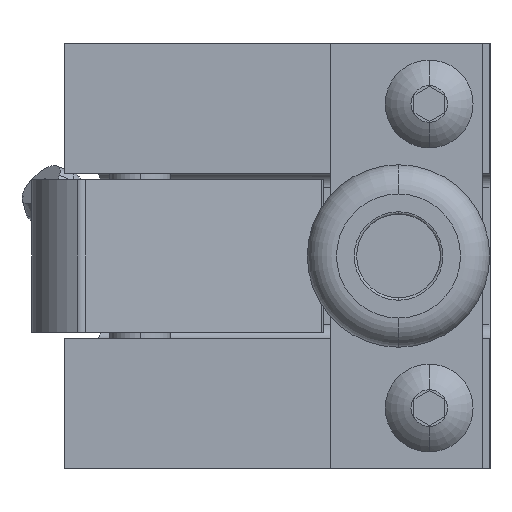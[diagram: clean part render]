
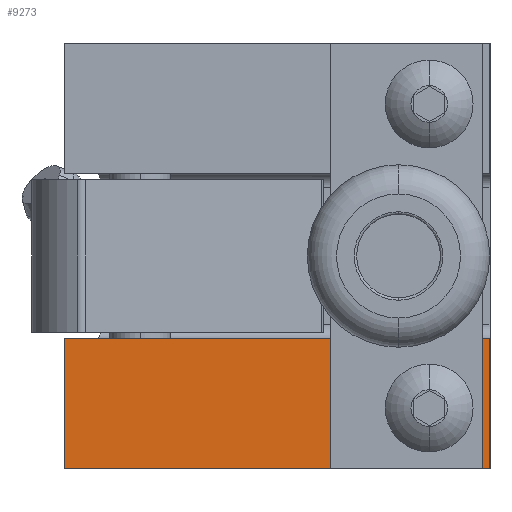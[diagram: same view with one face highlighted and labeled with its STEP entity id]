
A CAD part, left-side view. The second image highlights one B-rep face of the part: STEP entity #9273.
In plain terms, the highlighted planar face has unit normal (-1, 0, 0).
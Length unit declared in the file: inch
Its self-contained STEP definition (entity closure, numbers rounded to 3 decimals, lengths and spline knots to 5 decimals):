
#7853 = VERTEX_POINT ( 'NONE', #15065 ) ;
#7854 = VERTEX_POINT ( 'NONE', #15064 ) ;
#8202 = EDGE_CURVE ( 'NONE', #7853, #7854, #15971, .T. ) ;
#9198 = EDGE_CURVE ( 'NONE', #7854, #7853, #18491, .T. ) ;
#9199 = ORIENTED_EDGE ( 'NONE', *, *, #8202, .F. ) ;
#9200 = EDGE_LOOP ( 'NONE', ( #9201, #9448, #9431, #9343 ) ) ;
#9201 = ORIENTED_EDGE ( 'NONE', *, *, #9451, .F. ) ;
#9273 = ADVANCED_FACE ( 'NONE', ( #18704, #18703 ), #18802, .T. ) ;
#9274 = EDGE_LOOP ( 'NONE', ( #9289, #9199 ) ) ;
#9289 = ORIENTED_EDGE ( 'NONE', *, *, #9198, .F. ) ;
#9343 = ORIENTED_EDGE ( 'NONE', *, *, #9469, .T. ) ;
#9379 = VERTEX_POINT ( 'NONE', #18745 ) ;
#9394 = VERTEX_POINT ( 'NONE', #19003 ) ;
#9431 = ORIENTED_EDGE ( 'NONE', *, *, #9433, .T. ) ;
#9433 = EDGE_CURVE ( 'NONE', #9379, #9471, #18953, .T. ) ;
#9448 = ORIENTED_EDGE ( 'NONE', *, *, #9449, .F. ) ;
#9449 = EDGE_CURVE ( 'NONE', #9379, #9450, #18944, .T. ) ;
#9450 = VERTEX_POINT ( 'NONE', #18913 ) ;
#9451 = EDGE_CURVE ( 'NONE', #9450, #9394, #18912, .T. ) ;
#9469 = EDGE_CURVE ( 'NONE', #9471, #9394, #19085, .T. ) ;
#9471 = VERTEX_POINT ( 'NONE', #19081 ) ;
#15064 = CARTESIAN_POINT ( 'NONE',  ( 7.4273, 3.84026, -1.4065 ) ) ;
#15065 = CARTESIAN_POINT ( 'NONE',  ( 7.4273, 3.84026, -1.5935 ) ) ;
#15971 = CIRCLE ( 'NONE', #15987, 0.0935 ) ;
#15984 = DIRECTION ( 'NONE',  ( 0., 0., 1. ) ) ;
#15985 = DIRECTION ( 'NONE',  ( -1., 0., 0. ) ) ;
#15986 = CARTESIAN_POINT ( 'NONE',  ( 7.4273, 3.84026, -1.5 ) ) ;
#15987 = AXIS2_PLACEMENT_3D ( 'NONE', #15986, #15985, #15984 ) ;
#18487 = DIRECTION ( 'NONE',  ( 0., 0., 1. ) ) ;
#18488 = DIRECTION ( 'NONE',  ( -1., 0., 0. ) ) ;
#18489 = CARTESIAN_POINT ( 'NONE',  ( 7.4273, 3.84026, -1.5 ) ) ;
#18490 = AXIS2_PLACEMENT_3D ( 'NONE', #18489, #18488, #18487 ) ;
#18491 = CIRCLE ( 'NONE', #18490, 0.0935 ) ;
#18603 = CARTESIAN_POINT ( 'NONE',  ( 7.4273, 3.59026, -1.75 ) ) ;
#18604 = AXIS2_PLACEMENT_3D ( 'NONE', #18603, #18823, #18822 ) ;
#18703 = FACE_OUTER_BOUND ( 'NONE', #9200, .T. ) ;
#18704 = FACE_BOUND ( 'NONE', #9274, .T. ) ;
#18745 = CARTESIAN_POINT ( 'NONE',  ( 7.4273, 5.34026, -1.75 ) ) ;
#18802 = PLANE ( 'NONE',  #18604 ) ;
#18822 = DIRECTION ( 'NONE',  ( 0., 0., 1. ) ) ;
#18823 = DIRECTION ( 'NONE',  ( -1., 0., 0. ) ) ;
#18909 = DIRECTION ( 'NONE',  ( 0., -1., 0. ) ) ;
#18910 = VECTOR ( 'NONE', #18909, 39.37008 ) ;
#18911 = CARTESIAN_POINT ( 'NONE',  ( 7.4273, 3.59026, -1.215 ) ) ;
#18912 = LINE ( 'NONE', #18911, #18910 ) ;
#18913 = CARTESIAN_POINT ( 'NONE',  ( 7.4273, 5.34026, -1.215 ) ) ;
#18914 = DIRECTION ( 'NONE',  ( 0., 0., 1. ) ) ;
#18915 = VECTOR ( 'NONE', #18914, 39.37008 ) ;
#18916 = CARTESIAN_POINT ( 'NONE',  ( 7.4273, 5.34026, -1.75 ) ) ;
#18928 = VECTOR ( 'NONE', #18951, 39.37008 ) ;
#18944 = LINE ( 'NONE', #18916, #18915 ) ;
#18951 = DIRECTION ( 'NONE',  ( 0., -1., 0. ) ) ;
#18952 = CARTESIAN_POINT ( 'NONE',  ( 7.4273, 3.59026, -1.75 ) ) ;
#18953 = LINE ( 'NONE', #18952, #18928 ) ;
#19003 = CARTESIAN_POINT ( 'NONE',  ( 7.4273, 3.59026, -1.215 ) ) ;
#19081 = CARTESIAN_POINT ( 'NONE',  ( 7.4273, 3.59026, -1.75 ) ) ;
#19082 = DIRECTION ( 'NONE',  ( 0., 0., 1. ) ) ;
#19083 = VECTOR ( 'NONE', #19082, 39.37008 ) ;
#19084 = CARTESIAN_POINT ( 'NONE',  ( 7.4273, 3.59026, -1.75 ) ) ;
#19085 = LINE ( 'NONE', #19084, #19083 ) ;
